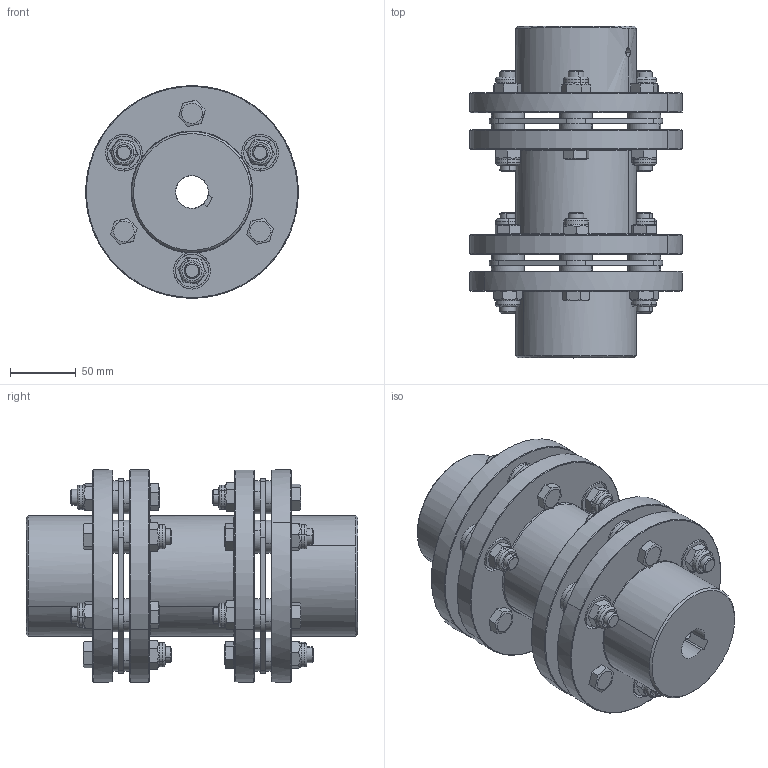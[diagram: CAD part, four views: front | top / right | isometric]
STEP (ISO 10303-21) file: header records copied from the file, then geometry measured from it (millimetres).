
FILE_DESCRIPTION( ( 'Unknown' ), '1' );
FILE_NAME( 'R:/utp/progettazione/3 D/X SITO/COUPLINGS/GTR/GTR-D/GTR-D 5.stp', 'Unknown', ( 'Unknown' ), ( 'Unknown' ), 'PSStep 10.1', 'Unknown', ' ' );
FILE_SCHEMA( ( 'AUTOMOTIVE_DESIGN { 1 0 10303 214 1 1 1 1 }' ) );
Length unit declared in the file: millimetre
Products named in the file (1): 1
Bounding box: 161.94 x 253 x 161.89 mm (x, y, z)
Volume: 2054943.4 mm3; surface area: 330864.6 mm2
Topology: 1 solids, 13 shells, 743 faces, 1880 edges, 1185 vertices
Faces by surface type: bspline 743
Entity records: 42110 total; most frequent: CARTESIAN_POINT 22377, ORIENTED_EDGE 3712, EDGE_CURVE 1856, PRESENTATION_STYLE_ASSIGNMENT 1487, COLOUR_RGB 1487, B_SPLINE_CURVE_WITH_KNOTS 1287, VERTEX_POINT 1185, EDGE_LOOP 867
